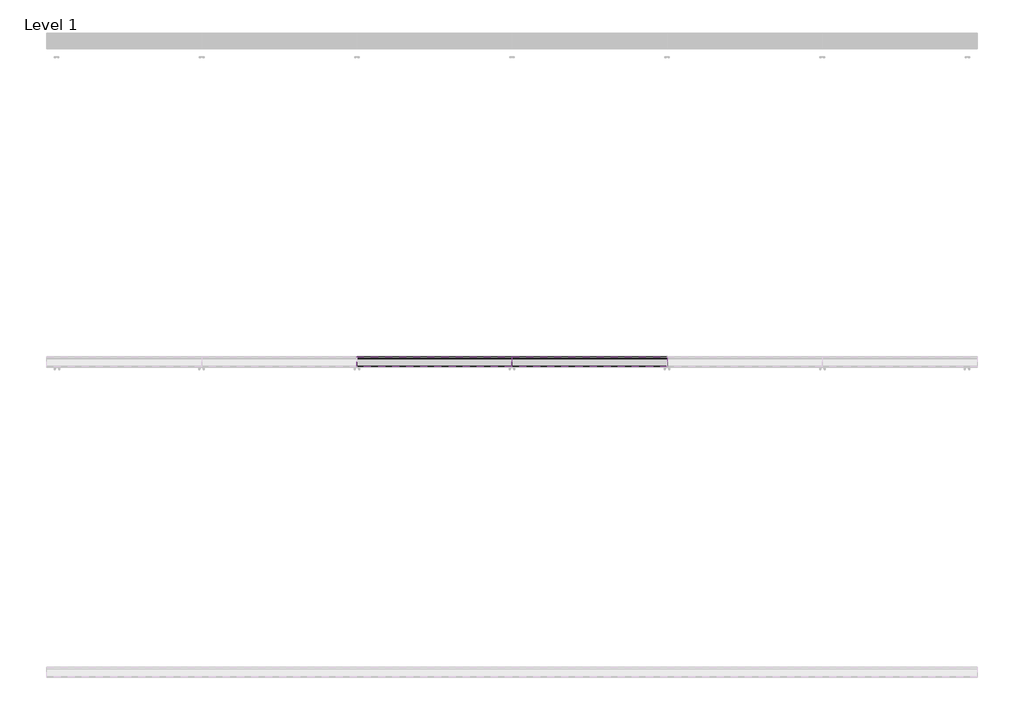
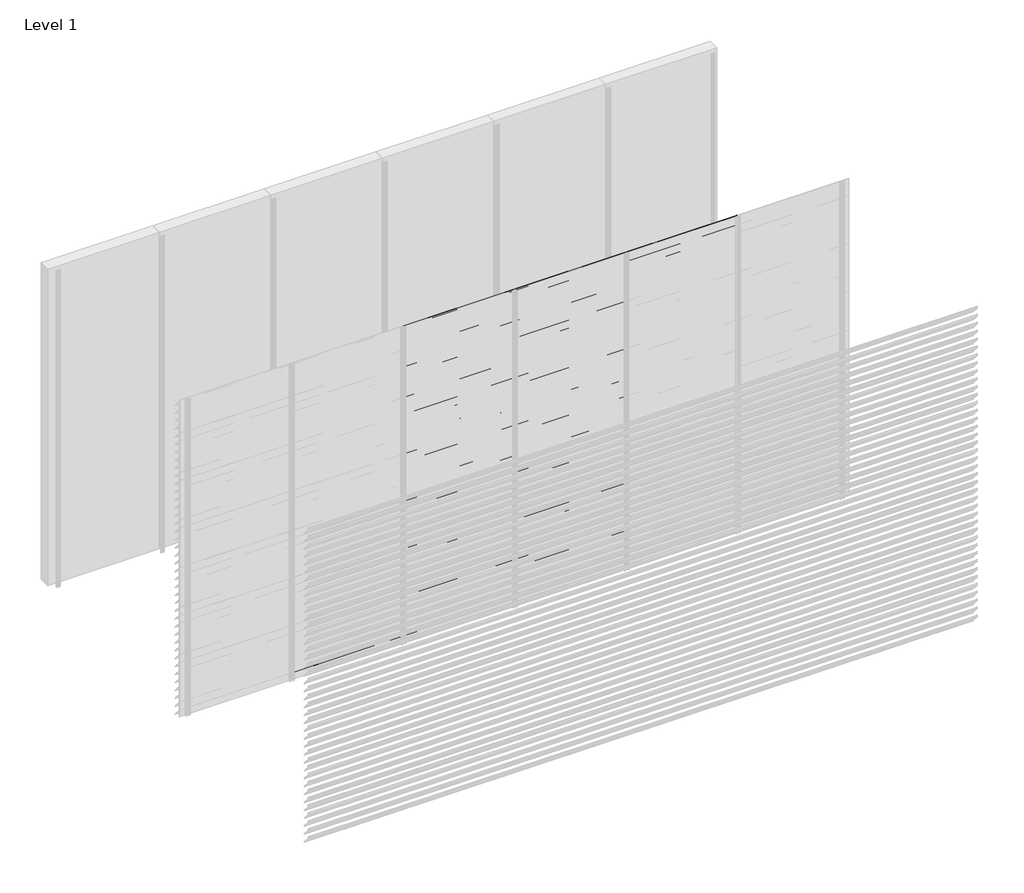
# One storey, part 31 of 35: 86 proxies.
"""IFC4 building model written with IfcOpenShell, lengths in millimetres."""

import ifcopenshell
import ifcopenshell.guid

model = None  # the IFC model being written
_history = None  # IfcOwnerHistory: only IFC2X3 demands one
_inside = {}  # id of a spatial element -> (the spatial element, [elements in it])
_under = {}  # id of a project, library or spatial element -> (it, [spatial elements below it])
_declared = {}  # id of a project -> (the project, [libraries it declares])
_typed = {}  # id of a type object -> (the type object, [elements of that type])
_made_of = {}  # id of a material, layer set ... -> (it, [elements and type objects made of it])


def new_model(schema):
    """Start an empty IFC model of exactly this schema.

    Asked for "IFC4X3", IfcOpenShell would pick the latest addendum, in which some entities
    have other attributes; the version numbers below select the first issue.
    IFC2X3 requires an IfcOwnerHistory on every rooted entity: one is made here for all.
    """
    global model, _history
    if schema == "IFC4X3":
        model = ifcopenshell.file(schema_version=(4, 3, 0, 0))
    else:
        model = ifcopenshell.file(schema=schema)
    _inside.clear()
    _under.clear()
    _declared.clear()
    _typed.clear()
    _made_of.clear()
    _history = None
    if model.schema == "IFC2X3":
        org = make("IfcOrganization", Name="unknown")
        user = make(
            "IfcPersonAndOrganization",
            ThePerson=make("IfcPerson", FamilyName="unknown"),
            TheOrganization=org,
        )
        app = make(
            "IfcApplication",
            ApplicationDeveloper=org,
            Version="unknown",
            ApplicationFullName="unknown",
            ApplicationIdentifier="unknown",
        )
        _history = make(
            "IfcOwnerHistory",
            OwningUser=user,
            OwningApplication=app,
            ChangeAction="ADDED",
            CreationDate=0,
        )
    return model


def make(cls, **values):
    """One entity of the class cls with the attributes given. An attribute that is None is left unset."""
    return model.create_entity(
        cls, **{name: value for name, value in values.items() if value is not None}
    )


def rooted(cls, **values):
    """An entity with a GlobalId (a new one), such as an element, a storey or a relation."""
    return make(cls, GlobalId=ifcopenshell.guid.new(), OwnerHistory=_history, **values)


def si_unit(unit_type, name, prefix=None):
    """IfcSIUnit, for example si_unit("LENGTHUNIT", "METRE", prefix="MILLI")."""
    return make("IfcSIUnit", UnitType=unit_type, Prefix=prefix, Name=name)


def assignment(units):
    """IfcUnitAssignment: the units of a project."""
    return None if units is None else make("IfcUnitAssignment", Units=units)


def point(xyz):
    """IfcCartesianPoint."""
    return None if xyz is None else make("IfcCartesianPoint", Coordinates=xyz)


def direction(xyz):
    """IfcDirection."""
    return None if xyz is None else make("IfcDirection", DirectionRatios=xyz)


def frame(location, z_axis=None, x_axis=None):
    """IfcAxis2Placement3D, a coordinate frame: its origin and axes. An axis left out is left unset."""
    return make(
        "IfcAxis2Placement3D",
        Location=point(location),
        Axis=direction(z_axis),
        RefDirection=direction(x_axis),
    )


def origin():
    """The frame at (0, 0, 0) with its axes left unset."""
    return frame((0.0, 0.0, 0.0))


def place(relative_to, where):
    """IfcLocalPlacement: puts the frame where relative to a parent placement (None: the world)."""
    return make(
        "IfcLocalPlacement", PlacementRelTo=relative_to, RelativePlacement=where
    )


def context(
    kind, dimensions, precision=None, world=None, true_north=None, identifier=None
):
    """IfcGeometricRepresentationContext, for example the 3D "Model" context."""
    return make(
        "IfcGeometricRepresentationContext",
        ContextIdentifier=identifier,
        ContextType=kind,
        CoordinateSpaceDimension=dimensions,
        Precision=precision,
        WorldCoordinateSystem=world,
        TrueNorth=true_north,
    )


def project(units=None, contexts=None):
    """IfcProject with its units and contexts."""
    return rooted(
        "IfcProject",
        Name="project",
        RepresentationContexts=contexts,
        UnitsInContext=assignment(units),
    )


def spatial(cls, under=None, at=None, **own):
    """A site, building, storey or space (cls), placed at a placement, below another one or the project."""
    s = rooted(cls, ObjectPlacement=at, **own)
    if under is not None:
        _under.setdefault(under.id(), (under, []))[1].append(s)
    return s


def polyline(points):
    """IfcPolyline through the points."""
    return make("IfcPolyline", Points=[point(p) for p in points])


def outline(outer, holes=None, kind="AREA"):
    """IfcArbitraryClosedProfileDef: a profile drawn as a closed curve; with holes, ...WithVoids."""
    if holes is None:
        return make("IfcArbitraryClosedProfileDef", ProfileType=kind, OuterCurve=outer)
    return make(
        "IfcArbitraryProfileDefWithVoids",
        ProfileType=kind,
        OuterCurve=outer,
        InnerCurves=holes,
    )


def extrude(swept, where, along, depth):
    """IfcExtrudedAreaSolid: the profile swept, set in the frame where, extruded along a direction by depth."""
    return make(
        "IfcExtrudedAreaSolid",
        SweptArea=swept,
        Position=where,
        ExtrudedDirection=direction(along),
        Depth=depth,
    )


def shape(context_of_items, identifier, shape_type, items):
    """IfcShapeRepresentation: the items that make up one representation, for example the "Body"."""
    return make(
        "IfcShapeRepresentation",
        ContextOfItems=context_of_items,
        RepresentationIdentifier=identifier,
        RepresentationType=shape_type,
        Items=items,
    )


def made_of(thing, what):
    """Note that an element or type object is made of a material, layer set ...; save() writes the relation."""
    if what is not None:
        _made_of.setdefault(what.id(), (what, []))[1].append(thing)
    return thing


def element(
    cls,
    number,
    at=None,
    inside=None,
    cuts=None,
    type_object=None,
    material=None,
    context=None,
    identifier="Body",
    shape_type=None,
    held_by="IfcProductDefinitionShape",
    body=None,
    shapes=None,
    **own,
):
    """One element of the class cls, such as IfcWall. Its Tag is "e" and its number.

    at: its placement. inside: the storey or other place that contains it. cuts: it is an
    opening in that element (IfcRelVoidsElement). A single representation is given by context,
    identifier, shape_type and body (its items); several are given by shapes. held_by: the class
    of the entity that holds the representations. save() writes the other relations.
    """
    e = rooted(cls, Tag="e%d" % number, ObjectPlacement=at, **own)
    if body is not None:
        shapes = [shape(context, identifier, shape_type, body)]
    if shapes is not None:
        e.Representation = make(held_by, Representations=shapes)
    if inside is not None:
        _inside.setdefault(inside.id(), (inside, []))[1].append(e)
    if cuts is not None:
        rooted(
            "IfcRelVoidsElement", RelatingBuildingElement=cuts, RelatedOpeningElement=e
        )
    if type_object is not None:
        _typed.setdefault(type_object.id(), (type_object, []))[1].append(e)
    return made_of(e, material)


def aggregate(whole, parts):
    """IfcRelAggregates: a whole, such as a stair, and the parts it consists of."""
    return rooted("IfcRelAggregates", RelatingObject=whole, RelatedObjects=parts)


def save(model, path):
    """Write the relations noted so far, then the file.

    IfcRelAggregates (storeys below a building ...), IfcRelContainedInSpatialStructure (elements
    in a storey), IfcRelDefinesByType, IfcRelAssociatesMaterial and IfcRelDeclares: one each for
    every whole, place, type object, material and project.
    """
    for whole, parts in _under.values():
        aggregate(whole, parts)
    for where, things in _inside.values():
        rooted(
            "IfcRelContainedInSpatialStructure",
            RelatedElements=things,
            RelatingStructure=where,
        )
    for kind, things in _typed.values():
        rooted("IfcRelDefinesByType", RelatedObjects=things, RelatingType=kind)
    for what, things in _made_of.values():
        rooted("IfcRelAssociatesMaterial", RelatedObjects=things, RelatingMaterial=what)
    for by, libraries in _declared.values():
        rooted("IfcRelDeclares", RelatingContext=by, RelatedDefinitions=libraries)
    model.write(path)


model = new_model("IFC4")

# Units and contexts
model_context = context("Model", 3, world=origin())
ifc_project = project(units=[si_unit("LENGTHUNIT", "METRE", prefix="MILLI")], contexts=[model_context])

# Site, building, storey
site = spatial("IfcSite", under=ifc_project)
building = spatial("IfcBuilding", under=site)
storey = spatial("IfcBuildingStorey", under=building, Name="Level 1", Elevation=0.0)

# Proxies
placement = place(None, origin())
element("IfcBuildingElementProxy", 1, Name="Wall Sweeps", at=placement, inside=storey, context=model_context, shape_type="SweptSolid", body=[
    extrude(outline(polyline([(-5996.5, 225.0), (-5996.5, 210.5463701), (-5934.5, 138.9330051), (-5934.5, 135.4), (-5936.0, 135.4), (-5936.0, 138.3738975), (-5998.0, 209.9872626), (-5998.0, 225.0), (-5996.5, 225.0)])), frame((1000.0, 0.0, 0.0), z_axis=(1.0, 0.0, 0.0), x_axis=(0.0, 1.0, 0.0)), (0.0, 0.0, 1.0), 1000.0),
])
element("IfcBuildingElementProxy", 2, Name="Wall Sweeps", at=placement, inside=storey, context=model_context, shape_type="SweptSolid", body=[
    extrude(outline(polyline([(-5996.5, 150.0), (-5996.5, 135.5463701), (-5934.5, 63.9330051), (-5934.5, 60.4), (-5936.0, 60.4), (-5936.0, 63.3738975), (-5998.0, 134.9872626), (-5998.0, 150.0), (-5996.5, 150.0)])), frame((1000.0, 0.0, 0.0), z_axis=(1.0, 0.0, 0.0), x_axis=(0.0, 1.0, 0.0)), (0.0, 0.0, 1.0), 1000.0),
])
element("IfcBuildingElementProxy", 3, Name="Wall Sweeps", at=placement, inside=storey, context=model_context, shape_type="SweptSolid", body=[
    extrude(outline(polyline([(-5996.5, 75.0), (-5996.5, 60.5463701), (-5934.5, -11.0669949), (-5934.5, -14.6), (-5936.0, -14.6), (-5936.0, -11.6261025), (-5998.0, 59.9872626), (-5998.0, 75.0), (-5996.5, 75.0)])), frame((1000.0, 0.0, 0.0), z_axis=(1.0, 0.0, 0.0), x_axis=(0.0, 1.0, 0.0)), (0.0, 0.0, 1.0), 1000.0),
])
element("IfcBuildingElementProxy", 4, Name="Wall Sweeps", at=placement, inside=storey, context=model_context, shape_type="SweptSolid", body=[
    extrude(outline(polyline([(-5996.5, 3000.0), (-5996.5, 2985.5463701), (-5934.5, 2913.9330051), (-5934.5, 2910.4), (-5936.0, 2910.4), (-5936.0, 2913.3738975), (-5998.0, 2984.9872626), (-5998.0, 3000.0), (-5996.5, 3000.0)])), frame((2000.0, 0.0, 0.0), z_axis=(1.0, 0.0, 0.0), x_axis=(0.0, 1.0, 0.0)), (0.0, 0.0, 1.0), 1000.0),
])
element("IfcBuildingElementProxy", 5, Name="Wall Sweeps", at=placement, inside=storey, context=model_context, shape_type="SweptSolid", body=[
    extrude(outline(polyline([(-5996.5, 2925.0), (-5996.5, 2910.5463701), (-5934.5, 2838.9330051), (-5934.5, 2835.4), (-5936.0, 2835.4), (-5936.0, 2838.3738975), (-5998.0, 2909.9872626), (-5998.0, 2925.0), (-5996.5, 2925.0)])), frame((2000.0, 0.0, 0.0), z_axis=(1.0, 0.0, 0.0), x_axis=(0.0, 1.0, 0.0)), (0.0, 0.0, 1.0), 1000.0),
])
element("IfcBuildingElementProxy", 6, Name="Wall Sweeps", at=placement, inside=storey, context=model_context, shape_type="SweptSolid", body=[
    extrude(outline(polyline([(-5996.5, 2850.0), (-5996.5, 2835.5463701), (-5934.5, 2763.9330051), (-5934.5, 2760.4), (-5936.0, 2760.4), (-5936.0, 2763.3738975), (-5998.0, 2834.9872626), (-5998.0, 2850.0), (-5996.5, 2850.0)])), frame((2000.0, 0.0, 0.0), z_axis=(1.0, 0.0, 0.0), x_axis=(0.0, 1.0, 0.0)), (0.0, 0.0, 1.0), 1000.0),
])
element("IfcBuildingElementProxy", 7, Name="Wall Sweeps", at=placement, inside=storey, context=model_context, shape_type="SweptSolid", body=[
    extrude(outline(polyline([(-5996.5, 2775.0), (-5996.5, 2760.5463701), (-5934.5, 2688.9330051), (-5934.5, 2685.4), (-5936.0, 2685.4), (-5936.0, 2688.3738975), (-5998.0, 2759.9872626), (-5998.0, 2775.0), (-5996.5, 2775.0)])), frame((2000.0, 0.0, 0.0), z_axis=(1.0, 0.0, 0.0), x_axis=(0.0, 1.0, 0.0)), (0.0, 0.0, 1.0), 1000.0),
])
element("IfcBuildingElementProxy", 8, Name="Wall Sweeps", at=placement, inside=storey, context=model_context, shape_type="SweptSolid", body=[
    extrude(outline(polyline([(-5996.5, 2700.0), (-5996.5, 2685.5463701), (-5934.5, 2613.9330051), (-5934.5, 2610.4), (-5936.0, 2610.4), (-5936.0, 2613.3738975), (-5998.0, 2684.9872626), (-5998.0, 2700.0), (-5996.5, 2700.0)])), frame((2000.0, 0.0, 0.0), z_axis=(1.0, 0.0, 0.0), x_axis=(0.0, 1.0, 0.0)), (0.0, 0.0, 1.0), 1000.0),
])
element("IfcBuildingElementProxy", 9, Name="Wall Sweeps", at=placement, inside=storey, context=model_context, shape_type="SweptSolid", body=[
    extrude(outline(polyline([(-5996.5, 2625.0), (-5996.5, 2610.5463701), (-5934.5, 2538.9330051), (-5934.5, 2535.4), (-5936.0, 2535.4), (-5936.0, 2538.3738975), (-5998.0, 2609.9872626), (-5998.0, 2625.0), (-5996.5, 2625.0)])), frame((2000.0, 0.0, 0.0), z_axis=(1.0, 0.0, 0.0), x_axis=(0.0, 1.0, 0.0)), (0.0, 0.0, 1.0), 1000.0),
])
element("IfcBuildingElementProxy", 10, Name="Wall Sweeps", at=placement, inside=storey, context=model_context, shape_type="SweptSolid", body=[
    extrude(outline(polyline([(-5996.5, 2550.0), (-5996.5, 2535.5463701), (-5934.5, 2463.9330051), (-5934.5, 2460.4), (-5936.0, 2460.4), (-5936.0, 2463.3738975), (-5998.0, 2534.9872626), (-5998.0, 2550.0), (-5996.5, 2550.0)])), frame((2000.0, 0.0, 0.0), z_axis=(1.0, 0.0, 0.0), x_axis=(0.0, 1.0, 0.0)), (0.0, 0.0, 1.0), 1000.0),
])
element("IfcBuildingElementProxy", 11, Name="Wall Sweeps", at=placement, inside=storey, context=model_context, shape_type="SweptSolid", body=[
    extrude(outline(polyline([(-5996.5, 2475.0), (-5996.5, 2460.5463701), (-5934.5, 2388.9330051), (-5934.5, 2385.4), (-5936.0, 2385.4), (-5936.0, 2388.3738975), (-5998.0, 2459.9872626), (-5998.0, 2475.0), (-5996.5, 2475.0)])), frame((2000.0, 0.0, 0.0), z_axis=(1.0, 0.0, 0.0), x_axis=(0.0, 1.0, 0.0)), (0.0, 0.0, 1.0), 1000.0),
])
element("IfcBuildingElementProxy", 12, Name="Wall Sweeps", at=placement, inside=storey, context=model_context, shape_type="SweptSolid", body=[
    extrude(outline(polyline([(-5996.5, 2400.0), (-5996.5, 2385.5463701), (-5934.5, 2313.9330051), (-5934.5, 2310.4), (-5936.0, 2310.4), (-5936.0, 2313.3738975), (-5998.0, 2384.9872626), (-5998.0, 2400.0), (-5996.5, 2400.0)])), frame((2000.0, 0.0, 0.0), z_axis=(1.0, 0.0, 0.0), x_axis=(0.0, 1.0, 0.0)), (0.0, 0.0, 1.0), 1000.0),
])
element("IfcBuildingElementProxy", 13, Name="Wall Sweeps", at=placement, inside=storey, context=model_context, shape_type="SweptSolid", body=[
    extrude(outline(polyline([(-5996.5, 2325.0), (-5996.5, 2310.5463701), (-5934.5, 2238.9330051), (-5934.5, 2235.4), (-5936.0, 2235.4), (-5936.0, 2238.3738975), (-5998.0, 2309.9872626), (-5998.0, 2325.0), (-5996.5, 2325.0)])), frame((2000.0, 0.0, 0.0), z_axis=(1.0, 0.0, 0.0), x_axis=(0.0, 1.0, 0.0)), (0.0, 0.0, 1.0), 1000.0),
])
element("IfcBuildingElementProxy", 14, Name="Wall Sweeps", at=placement, inside=storey, context=model_context, shape_type="SweptSolid", body=[
    extrude(outline(polyline([(-5996.5, 2250.0), (-5996.5, 2235.5463701), (-5934.5, 2163.9330051), (-5934.5, 2160.4), (-5936.0, 2160.4), (-5936.0, 2163.3738975), (-5998.0, 2234.9872626), (-5998.0, 2250.0), (-5996.5, 2250.0)])), frame((2000.0, 0.0, 0.0), z_axis=(1.0, 0.0, 0.0), x_axis=(0.0, 1.0, 0.0)), (0.0, 0.0, 1.0), 1000.0),
])
element("IfcBuildingElementProxy", 15, Name="Wall Sweeps", at=placement, inside=storey, context=model_context, shape_type="SweptSolid", body=[
    extrude(outline(polyline([(-5996.5, 2175.0), (-5996.5, 2160.5463701), (-5934.5, 2088.9330051), (-5934.5, 2085.4), (-5936.0, 2085.4), (-5936.0, 2088.3738975), (-5998.0, 2159.9872626), (-5998.0, 2175.0), (-5996.5, 2175.0)])), frame((2000.0, 0.0, 0.0), z_axis=(1.0, 0.0, 0.0), x_axis=(0.0, 1.0, 0.0)), (0.0, 0.0, 1.0), 1000.0),
])
element("IfcBuildingElementProxy", 16, Name="Wall Sweeps", at=placement, inside=storey, context=model_context, shape_type="SweptSolid", body=[
    extrude(outline(polyline([(-5996.5, 2100.0), (-5996.5, 2085.5463701), (-5934.5, 2013.9330051), (-5934.5, 2010.4), (-5936.0, 2010.4), (-5936.0, 2013.3738975), (-5998.0, 2084.9872626), (-5998.0, 2100.0), (-5996.5, 2100.0)])), frame((2000.0, 0.0, 0.0), z_axis=(1.0, 0.0, 0.0), x_axis=(0.0, 1.0, 0.0)), (0.0, 0.0, 1.0), 1000.0),
])
element("IfcBuildingElementProxy", 17, Name="Wall Sweeps", at=placement, inside=storey, context=model_context, shape_type="SweptSolid", body=[
    extrude(outline(polyline([(-5996.5, 2025.0), (-5996.5, 2010.5463701), (-5934.5, 1938.9330051), (-5934.5, 1935.4), (-5936.0, 1935.4), (-5936.0, 1938.3738975), (-5998.0, 2009.9872626), (-5998.0, 2025.0), (-5996.5, 2025.0)])), frame((2000.0, 0.0, 0.0), z_axis=(1.0, 0.0, 0.0), x_axis=(0.0, 1.0, 0.0)), (0.0, 0.0, 1.0), 1000.0),
])
element("IfcBuildingElementProxy", 18, Name="Wall Sweeps", at=placement, inside=storey, context=model_context, shape_type="SweptSolid", body=[
    extrude(outline(polyline([(-5996.5, 1950.0), (-5996.5, 1935.5463701), (-5934.5, 1863.9330051), (-5934.5, 1860.4), (-5936.0, 1860.4), (-5936.0, 1863.3738975), (-5998.0, 1934.9872626), (-5998.0, 1950.0), (-5996.5, 1950.0)])), frame((2000.0, 0.0, 0.0), z_axis=(1.0, 0.0, 0.0), x_axis=(0.0, 1.0, 0.0)), (0.0, 0.0, 1.0), 1000.0),
])
element("IfcBuildingElementProxy", 19, Name="Wall Sweeps", at=placement, inside=storey, context=model_context, shape_type="SweptSolid", body=[
    extrude(outline(polyline([(-5996.5, 1875.0), (-5996.5, 1860.5463701), (-5934.5, 1788.9330051), (-5934.5, 1785.4), (-5936.0, 1785.4), (-5936.0, 1788.3738975), (-5998.0, 1859.9872626), (-5998.0, 1875.0), (-5996.5, 1875.0)])), frame((2000.0, 0.0, 0.0), z_axis=(1.0, 0.0, 0.0), x_axis=(0.0, 1.0, 0.0)), (0.0, 0.0, 1.0), 1000.0),
])
element("IfcBuildingElementProxy", 20, Name="Wall Sweeps", at=placement, inside=storey, context=model_context, shape_type="SweptSolid", body=[
    extrude(outline(polyline([(-5996.5, 1800.0), (-5996.5, 1785.5463701), (-5934.5, 1713.9330051), (-5934.5, 1710.4), (-5936.0, 1710.4), (-5936.0, 1713.3738975), (-5998.0, 1784.9872626), (-5998.0, 1800.0), (-5996.5, 1800.0)])), frame((2000.0, 0.0, 0.0), z_axis=(1.0, 0.0, 0.0), x_axis=(0.0, 1.0, 0.0)), (0.0, 0.0, 1.0), 1000.0),
])
element("IfcBuildingElementProxy", 21, Name="Wall Sweeps", at=placement, inside=storey, context=model_context, shape_type="SweptSolid", body=[
    extrude(outline(polyline([(-5996.5, 1725.0), (-5996.5, 1710.5463701), (-5934.5, 1638.9330051), (-5934.5, 1635.4), (-5936.0, 1635.4), (-5936.0, 1638.3738975), (-5998.0, 1709.9872626), (-5998.0, 1725.0), (-5996.5, 1725.0)])), frame((2000.0, 0.0, 0.0), z_axis=(1.0, 0.0, 0.0), x_axis=(0.0, 1.0, 0.0)), (0.0, 0.0, 1.0), 1000.0),
])
element("IfcBuildingElementProxy", 22, Name="Wall Sweeps", at=placement, inside=storey, context=model_context, shape_type="SweptSolid", body=[
    extrude(outline(polyline([(-5996.5, 1650.0), (-5996.5, 1635.5463701), (-5934.5, 1563.9330051), (-5934.5, 1560.4), (-5936.0, 1560.4), (-5936.0, 1563.3738975), (-5998.0, 1634.9872626), (-5998.0, 1650.0), (-5996.5, 1650.0)])), frame((2000.0, 0.0, 0.0), z_axis=(1.0, 0.0, 0.0), x_axis=(0.0, 1.0, 0.0)), (0.0, 0.0, 1.0), 1000.0),
])
element("IfcBuildingElementProxy", 23, Name="Wall Sweeps", at=placement, inside=storey, context=model_context, shape_type="SweptSolid", body=[
    extrude(outline(polyline([(-5996.5, 1575.0), (-5996.5, 1560.5463701), (-5934.5, 1488.9330051), (-5934.5, 1485.4), (-5936.0, 1485.4), (-5936.0, 1488.3738975), (-5998.0, 1559.9872626), (-5998.0, 1575.0), (-5996.5, 1575.0)])), frame((2000.0, 0.0, 0.0), z_axis=(1.0, 0.0, 0.0), x_axis=(0.0, 1.0, 0.0)), (0.0, 0.0, 1.0), 1000.0),
])
element("IfcBuildingElementProxy", 24, Name="Wall Sweeps", at=placement, inside=storey, context=model_context, shape_type="SweptSolid", body=[
    extrude(outline(polyline([(-5996.5, 1500.0), (-5996.5, 1485.5463701), (-5934.5, 1413.9330051), (-5934.5, 1410.4), (-5936.0, 1410.4), (-5936.0, 1413.3738975), (-5998.0, 1484.9872626), (-5998.0, 1500.0), (-5996.5, 1500.0)])), frame((2000.0, 0.0, 0.0), z_axis=(1.0, 0.0, 0.0), x_axis=(0.0, 1.0, 0.0)), (0.0, 0.0, 1.0), 1000.0),
])
element("IfcBuildingElementProxy", 25, Name="Wall Sweeps", at=placement, inside=storey, context=model_context, shape_type="SweptSolid", body=[
    extrude(outline(polyline([(-5996.5, 1425.0), (-5996.5, 1410.5463701), (-5934.5, 1338.9330051), (-5934.5, 1335.4), (-5936.0, 1335.4), (-5936.0, 1338.3738975), (-5998.0, 1409.9872626), (-5998.0, 1425.0), (-5996.5, 1425.0)])), frame((2000.0, 0.0, 0.0), z_axis=(1.0, 0.0, 0.0), x_axis=(0.0, 1.0, 0.0)), (0.0, 0.0, 1.0), 1000.0),
])
element("IfcBuildingElementProxy", 26, Name="Wall Sweeps", at=placement, inside=storey, context=model_context, shape_type="SweptSolid", body=[
    extrude(outline(polyline([(-5996.5, 1350.0), (-5996.5, 1335.5463701), (-5934.5, 1263.9330051), (-5934.5, 1260.4), (-5936.0, 1260.4), (-5936.0, 1263.3738975), (-5998.0, 1334.9872626), (-5998.0, 1350.0), (-5996.5, 1350.0)])), frame((2000.0, 0.0, 0.0), z_axis=(1.0, 0.0, 0.0), x_axis=(0.0, 1.0, 0.0)), (0.0, 0.0, 1.0), 1000.0),
])
element("IfcBuildingElementProxy", 27, Name="Wall Sweeps", at=placement, inside=storey, context=model_context, shape_type="SweptSolid", body=[
    extrude(outline(polyline([(-5996.5, 1275.0), (-5996.5, 1260.5463701), (-5934.5, 1188.9330051), (-5934.5, 1185.4), (-5936.0, 1185.4), (-5936.0, 1188.3738975), (-5998.0, 1259.9872626), (-5998.0, 1275.0), (-5996.5, 1275.0)])), frame((2000.0, 0.0, 0.0), z_axis=(1.0, 0.0, 0.0), x_axis=(0.0, 1.0, 0.0)), (0.0, 0.0, 1.0), 1000.0),
])
element("IfcBuildingElementProxy", 28, Name="Wall Sweeps", at=placement, inside=storey, context=model_context, shape_type="SweptSolid", body=[
    extrude(outline(polyline([(-5996.5, 1200.0), (-5996.5, 1185.5463701), (-5934.5, 1113.9330051), (-5934.5, 1110.4), (-5936.0, 1110.4), (-5936.0, 1113.3738975), (-5998.0, 1184.9872626), (-5998.0, 1200.0), (-5996.5, 1200.0)])), frame((2000.0, 0.0, 0.0), z_axis=(1.0, 0.0, 0.0), x_axis=(0.0, 1.0, 0.0)), (0.0, 0.0, 1.0), 1000.0),
])
element("IfcBuildingElementProxy", 29, Name="Wall Sweeps", at=placement, inside=storey, context=model_context, shape_type="SweptSolid", body=[
    extrude(outline(polyline([(-5996.5, 1125.0), (-5996.5, 1110.5463701), (-5934.5, 1038.9330051), (-5934.5, 1035.4), (-5936.0, 1035.4), (-5936.0, 1038.3738975), (-5998.0, 1109.9872626), (-5998.0, 1125.0), (-5996.5, 1125.0)])), frame((2000.0, 0.0, 0.0), z_axis=(1.0, 0.0, 0.0), x_axis=(0.0, 1.0, 0.0)), (0.0, 0.0, 1.0), 1000.0),
])
element("IfcBuildingElementProxy", 30, Name="Wall Sweeps", at=placement, inside=storey, context=model_context, shape_type="SweptSolid", body=[
    extrude(outline(polyline([(-5996.5, 1050.0), (-5996.5, 1035.5463701), (-5934.5, 963.9330051), (-5934.5, 960.4), (-5936.0, 960.4), (-5936.0, 963.3738975), (-5998.0, 1034.9872626), (-5998.0, 1050.0), (-5996.5, 1050.0)])), frame((2000.0, 0.0, 0.0), z_axis=(1.0, 0.0, 0.0), x_axis=(0.0, 1.0, 0.0)), (0.0, 0.0, 1.0), 1000.0),
])
element("IfcBuildingElementProxy", 31, Name="Wall Sweeps", at=placement, inside=storey, context=model_context, shape_type="SweptSolid", body=[
    extrude(outline(polyline([(-5996.5, 975.0), (-5996.5, 960.5463701), (-5934.5, 888.9330051), (-5934.5, 885.4), (-5936.0, 885.4), (-5936.0, 888.3738975), (-5998.0, 959.9872626), (-5998.0, 975.0), (-5996.5, 975.0)])), frame((2000.0, 0.0, 0.0), z_axis=(1.0, 0.0, 0.0), x_axis=(0.0, 1.0, 0.0)), (0.0, 0.0, 1.0), 1000.0),
])
element("IfcBuildingElementProxy", 32, Name="Wall Sweeps", at=placement, inside=storey, context=model_context, shape_type="SweptSolid", body=[
    extrude(outline(polyline([(-5996.5, 900.0), (-5996.5, 885.5463701), (-5934.5, 813.9330051), (-5934.5, 810.4), (-5936.0, 810.4), (-5936.0, 813.3738975), (-5998.0, 884.9872626), (-5998.0, 900.0), (-5996.5, 900.0)])), frame((2000.0, 0.0, 0.0), z_axis=(1.0, 0.0, 0.0), x_axis=(0.0, 1.0, 0.0)), (0.0, 0.0, 1.0), 1000.0),
])
element("IfcBuildingElementProxy", 33, Name="Wall Sweeps", at=placement, inside=storey, context=model_context, shape_type="SweptSolid", body=[
    extrude(outline(polyline([(-5996.5, 825.0), (-5996.5, 810.5463701), (-5934.5, 738.9330051), (-5934.5, 735.4), (-5936.0, 735.4), (-5936.0, 738.3738975), (-5998.0, 809.9872626), (-5998.0, 825.0), (-5996.5, 825.0)])), frame((2000.0, 0.0, 0.0), z_axis=(1.0, 0.0, 0.0), x_axis=(0.0, 1.0, 0.0)), (0.0, 0.0, 1.0), 1000.0),
])
element("IfcBuildingElementProxy", 34, Name="Wall Sweeps", at=placement, inside=storey, context=model_context, shape_type="SweptSolid", body=[
    extrude(outline(polyline([(-5996.5, 750.0), (-5996.5, 735.5463701), (-5934.5, 663.9330051), (-5934.5, 660.4), (-5936.0, 660.4), (-5936.0, 663.3738975), (-5998.0, 734.9872626), (-5998.0, 750.0), (-5996.5, 750.0)])), frame((2000.0, 0.0, 0.0), z_axis=(1.0, 0.0, 0.0), x_axis=(0.0, 1.0, 0.0)), (0.0, 0.0, 1.0), 1000.0),
])
element("IfcBuildingElementProxy", 35, Name="Wall Sweeps", at=placement, inside=storey, context=model_context, shape_type="SweptSolid", body=[
    extrude(outline(polyline([(-5996.5, 675.0), (-5996.5, 660.5463701), (-5934.5, 588.9330051), (-5934.5, 585.4), (-5936.0, 585.4), (-5936.0, 588.3738975), (-5998.0, 659.9872626), (-5998.0, 675.0), (-5996.5, 675.0)])), frame((2000.0, 0.0, 0.0), z_axis=(1.0, 0.0, 0.0), x_axis=(0.0, 1.0, 0.0)), (0.0, 0.0, 1.0), 1000.0),
])
element("IfcBuildingElementProxy", 36, Name="Wall Sweeps", at=placement, inside=storey, context=model_context, shape_type="SweptSolid", body=[
    extrude(outline(polyline([(-5996.5, 600.0), (-5996.5, 585.5463701), (-5934.5, 513.9330051), (-5934.5, 510.4), (-5936.0, 510.4), (-5936.0, 513.3738975), (-5998.0, 584.9872626), (-5998.0, 600.0), (-5996.5, 600.0)])), frame((2000.0, 0.0, 0.0), z_axis=(1.0, 0.0, 0.0), x_axis=(0.0, 1.0, 0.0)), (0.0, 0.0, 1.0), 1000.0),
])
element("IfcBuildingElementProxy", 37, Name="Wall Sweeps", at=placement, inside=storey, context=model_context, shape_type="SweptSolid", body=[
    extrude(outline(polyline([(-5996.5, 525.0), (-5996.5, 510.5463701), (-5934.5, 438.9330051), (-5934.5, 435.4), (-5936.0, 435.4), (-5936.0, 438.3738975), (-5998.0, 509.9872626), (-5998.0, 525.0), (-5996.5, 525.0)])), frame((2000.0, 0.0, 0.0), z_axis=(1.0, 0.0, 0.0), x_axis=(0.0, 1.0, 0.0)), (0.0, 0.0, 1.0), 1000.0),
])
element("IfcBuildingElementProxy", 38, Name="Wall Sweeps", at=placement, inside=storey, context=model_context, shape_type="SweptSolid", body=[
    extrude(outline(polyline([(-5996.5, 450.0), (-5996.5, 435.5463701), (-5934.5, 363.9330051), (-5934.5, 360.4), (-5936.0, 360.4), (-5936.0, 363.3738975), (-5998.0, 434.9872626), (-5998.0, 450.0), (-5996.5, 450.0)])), frame((2000.0, 0.0, 0.0), z_axis=(1.0, 0.0, 0.0), x_axis=(0.0, 1.0, 0.0)), (0.0, 0.0, 1.0), 1000.0),
])
element("IfcBuildingElementProxy", 39, Name="Wall Sweeps", at=placement, inside=storey, context=model_context, shape_type="SweptSolid", body=[
    extrude(outline(polyline([(-5996.5, 375.0), (-5996.5, 360.5463701), (-5934.5, 288.9330051), (-5934.5, 285.4), (-5936.0, 285.4), (-5936.0, 288.3738975), (-5998.0, 359.9872626), (-5998.0, 375.0), (-5996.5, 375.0)])), frame((2000.0, 0.0, 0.0), z_axis=(1.0, 0.0, 0.0), x_axis=(0.0, 1.0, 0.0)), (0.0, 0.0, 1.0), 1000.0),
])
element("IfcBuildingElementProxy", 40, Name="Wall Sweeps", at=placement, inside=storey, context=model_context, shape_type="SweptSolid", body=[
    extrude(outline(polyline([(-5996.5, 300.0), (-5996.5, 285.5463701), (-5934.5, 213.9330051), (-5934.5, 210.4), (-5936.0, 210.4), (-5936.0, 213.3738975), (-5998.0, 284.9872626), (-5998.0, 300.0), (-5996.5, 300.0)])), frame((2000.0, 0.0, 0.0), z_axis=(1.0, 0.0, 0.0), x_axis=(0.0, 1.0, 0.0)), (0.0, 0.0, 1.0), 1000.0),
])
element("IfcBuildingElementProxy", 41, Name="Wall Sweeps", at=placement, inside=storey, context=model_context, shape_type="SweptSolid", body=[
    extrude(outline(polyline([(-5996.5, 225.0), (-5996.5, 210.5463701), (-5934.5, 138.9330051), (-5934.5, 135.4), (-5936.0, 135.4), (-5936.0, 138.3738975), (-5998.0, 209.9872626), (-5998.0, 225.0), (-5996.5, 225.0)])), frame((2000.0, 0.0, 0.0), z_axis=(1.0, 0.0, 0.0), x_axis=(0.0, 1.0, 0.0)), (0.0, 0.0, 1.0), 1000.0),
])
element("IfcBuildingElementProxy", 42, Name="Wall Sweeps", at=placement, inside=storey, context=model_context, shape_type="SweptSolid", body=[
    extrude(outline(polyline([(-5996.5, 150.0), (-5996.5, 135.5463701), (-5934.5, 63.9330051), (-5934.5, 60.4), (-5936.0, 60.4), (-5936.0, 63.3738975), (-5998.0, 134.9872626), (-5998.0, 150.0), (-5996.5, 150.0)])), frame((2000.0, 0.0, 0.0), z_axis=(1.0, 0.0, 0.0), x_axis=(0.0, 1.0, 0.0)), (0.0, 0.0, 1.0), 1000.0),
])
element("IfcBuildingElementProxy", 43, Name="Wall Sweeps", at=placement, inside=storey, context=model_context, shape_type="SweptSolid", body=[
    extrude(outline(polyline([(-5996.5, 75.0), (-5996.5, 60.5463701), (-5934.5, -11.0669949), (-5934.5, -14.6), (-5936.0, -14.6), (-5936.0, -11.6261025), (-5998.0, 59.9872626), (-5998.0, 75.0), (-5996.5, 75.0)])), frame((2000.0, 0.0, 0.0), z_axis=(1.0, 0.0, 0.0), x_axis=(0.0, 1.0, 0.0)), (0.0, 0.0, 1.0), 1000.0),
])
element("IfcBuildingElementProxy", 44, Name="Wall Sweeps", at=placement, inside=storey, context=model_context, shape_type="SweptSolid", body=[
    extrude(outline(polyline([(-5996.5, 3000.0), (-5996.5, 2985.5463701), (-5934.5, 2913.9330051), (-5934.5, 2910.4), (-5936.0, 2910.4), (-5936.0, 2913.3738975), (-5998.0, 2984.9872626), (-5998.0, 3000.0), (-5996.5, 3000.0)])), frame((3000.0, 0.0, 0.0), z_axis=(1.0, 0.0, 0.0), x_axis=(0.0, 1.0, 0.0)), (0.0, 0.0, 1.0), 1000.0),
])
element("IfcBuildingElementProxy", 45, Name="Wall Sweeps", at=placement, inside=storey, context=model_context, shape_type="SweptSolid", body=[
    extrude(outline(polyline([(-5996.5, 2925.0), (-5996.5, 2910.5463701), (-5934.5, 2838.9330051), (-5934.5, 2835.4), (-5936.0, 2835.4), (-5936.0, 2838.3738975), (-5998.0, 2909.9872626), (-5998.0, 2925.0), (-5996.5, 2925.0)])), frame((3000.0, 0.0, 0.0), z_axis=(1.0, 0.0, 0.0), x_axis=(0.0, 1.0, 0.0)), (0.0, 0.0, 1.0), 1000.0),
])
element("IfcBuildingElementProxy", 46, Name="Wall Sweeps", at=placement, inside=storey, context=model_context, shape_type="SweptSolid", body=[
    extrude(outline(polyline([(-5996.5, 2850.0), (-5996.5, 2835.5463701), (-5934.5, 2763.9330051), (-5934.5, 2760.4), (-5936.0, 2760.4), (-5936.0, 2763.3738975), (-5998.0, 2834.9872626), (-5998.0, 2850.0), (-5996.5, 2850.0)])), frame((3000.0, 0.0, 0.0), z_axis=(1.0, 0.0, 0.0), x_axis=(0.0, 1.0, 0.0)), (0.0, 0.0, 1.0), 1000.0),
])
element("IfcBuildingElementProxy", 47, Name="Wall Sweeps", at=placement, inside=storey, context=model_context, shape_type="SweptSolid", body=[
    extrude(outline(polyline([(-5996.5, 2775.0), (-5996.5, 2760.5463701), (-5934.5, 2688.9330051), (-5934.5, 2685.4), (-5936.0, 2685.4), (-5936.0, 2688.3738975), (-5998.0, 2759.9872626), (-5998.0, 2775.0), (-5996.5, 2775.0)])), frame((3000.0, 0.0, 0.0), z_axis=(1.0, 0.0, 0.0), x_axis=(0.0, 1.0, 0.0)), (0.0, 0.0, 1.0), 1000.0),
])
element("IfcBuildingElementProxy", 48, Name="Wall Sweeps", at=placement, inside=storey, context=model_context, shape_type="SweptSolid", body=[
    extrude(outline(polyline([(-5996.5, 2700.0), (-5996.5, 2685.5463701), (-5934.5, 2613.9330051), (-5934.5, 2610.4), (-5936.0, 2610.4), (-5936.0, 2613.3738975), (-5998.0, 2684.9872626), (-5998.0, 2700.0), (-5996.5, 2700.0)])), frame((3000.0, 0.0, 0.0), z_axis=(1.0, 0.0, 0.0), x_axis=(0.0, 1.0, 0.0)), (0.0, 0.0, 1.0), 1000.0),
])
element("IfcBuildingElementProxy", 49, Name="Wall Sweeps", at=placement, inside=storey, context=model_context, shape_type="SweptSolid", body=[
    extrude(outline(polyline([(-5996.5, 2625.0), (-5996.5, 2610.5463701), (-5934.5, 2538.9330051), (-5934.5, 2535.4), (-5936.0, 2535.4), (-5936.0, 2538.3738975), (-5998.0, 2609.9872626), (-5998.0, 2625.0), (-5996.5, 2625.0)])), frame((3000.0, 0.0, 0.0), z_axis=(1.0, 0.0, 0.0), x_axis=(0.0, 1.0, 0.0)), (0.0, 0.0, 1.0), 1000.0),
])
element("IfcBuildingElementProxy", 50, Name="Wall Sweeps", at=placement, inside=storey, context=model_context, shape_type="SweptSolid", body=[
    extrude(outline(polyline([(-5996.5, 2550.0), (-5996.5, 2535.5463701), (-5934.5, 2463.9330051), (-5934.5, 2460.4), (-5936.0, 2460.4), (-5936.0, 2463.3738975), (-5998.0, 2534.9872626), (-5998.0, 2550.0), (-5996.5, 2550.0)])), frame((3000.0, 0.0, 0.0), z_axis=(1.0, 0.0, 0.0), x_axis=(0.0, 1.0, 0.0)), (0.0, 0.0, 1.0), 1000.0),
])
element("IfcBuildingElementProxy", 51, Name="Wall Sweeps", at=placement, inside=storey, context=model_context, shape_type="SweptSolid", body=[
    extrude(outline(polyline([(-5996.5, 2475.0), (-5996.5, 2460.5463701), (-5934.5, 2388.9330051), (-5934.5, 2385.4), (-5936.0, 2385.4), (-5936.0, 2388.3738975), (-5998.0, 2459.9872626), (-5998.0, 2475.0), (-5996.5, 2475.0)])), frame((3000.0, 0.0, 0.0), z_axis=(1.0, 0.0, 0.0), x_axis=(0.0, 1.0, 0.0)), (0.0, 0.0, 1.0), 1000.0),
])
element("IfcBuildingElementProxy", 52, Name="Wall Sweeps", at=placement, inside=storey, context=model_context, shape_type="SweptSolid", body=[
    extrude(outline(polyline([(-5996.5, 2400.0), (-5996.5, 2385.5463701), (-5934.5, 2313.9330051), (-5934.5, 2310.4), (-5936.0, 2310.4), (-5936.0, 2313.3738975), (-5998.0, 2384.9872626), (-5998.0, 2400.0), (-5996.5, 2400.0)])), frame((3000.0, 0.0, 0.0), z_axis=(1.0, 0.0, 0.0), x_axis=(0.0, 1.0, 0.0)), (0.0, 0.0, 1.0), 1000.0),
])
element("IfcBuildingElementProxy", 53, Name="Wall Sweeps", at=placement, inside=storey, context=model_context, shape_type="SweptSolid", body=[
    extrude(outline(polyline([(-5996.5, 2325.0), (-5996.5, 2310.5463701), (-5934.5, 2238.9330051), (-5934.5, 2235.4), (-5936.0, 2235.4), (-5936.0, 2238.3738975), (-5998.0, 2309.9872626), (-5998.0, 2325.0), (-5996.5, 2325.0)])), frame((3000.0, 0.0, 0.0), z_axis=(1.0, 0.0, 0.0), x_axis=(0.0, 1.0, 0.0)), (0.0, 0.0, 1.0), 1000.0),
])
element("IfcBuildingElementProxy", 54, Name="Wall Sweeps", at=placement, inside=storey, context=model_context, shape_type="SweptSolid", body=[
    extrude(outline(polyline([(-5996.5, 2250.0), (-5996.5, 2235.5463701), (-5934.5, 2163.9330051), (-5934.5, 2160.4), (-5936.0, 2160.4), (-5936.0, 2163.3738975), (-5998.0, 2234.9872626), (-5998.0, 2250.0), (-5996.5, 2250.0)])), frame((3000.0, 0.0, 0.0), z_axis=(1.0, 0.0, 0.0), x_axis=(0.0, 1.0, 0.0)), (0.0, 0.0, 1.0), 1000.0),
])
element("IfcBuildingElementProxy", 55, Name="Wall Sweeps", at=placement, inside=storey, context=model_context, shape_type="SweptSolid", body=[
    extrude(outline(polyline([(-5996.5, 2175.0), (-5996.5, 2160.5463701), (-5934.5, 2088.9330051), (-5934.5, 2085.4), (-5936.0, 2085.4), (-5936.0, 2088.3738975), (-5998.0, 2159.9872626), (-5998.0, 2175.0), (-5996.5, 2175.0)])), frame((3000.0, 0.0, 0.0), z_axis=(1.0, 0.0, 0.0), x_axis=(0.0, 1.0, 0.0)), (0.0, 0.0, 1.0), 1000.0),
])
element("IfcBuildingElementProxy", 56, Name="Wall Sweeps", at=placement, inside=storey, context=model_context, shape_type="SweptSolid", body=[
    extrude(outline(polyline([(-5996.5, 2100.0), (-5996.5, 2085.5463701), (-5934.5, 2013.9330051), (-5934.5, 2010.4), (-5936.0, 2010.4), (-5936.0, 2013.3738975), (-5998.0, 2084.9872626), (-5998.0, 2100.0), (-5996.5, 2100.0)])), frame((3000.0, 0.0, 0.0), z_axis=(1.0, 0.0, 0.0), x_axis=(0.0, 1.0, 0.0)), (0.0, 0.0, 1.0), 1000.0),
])
element("IfcBuildingElementProxy", 57, Name="Wall Sweeps", at=placement, inside=storey, context=model_context, shape_type="SweptSolid", body=[
    extrude(outline(polyline([(-5996.5, 2025.0), (-5996.5, 2010.5463701), (-5934.5, 1938.9330051), (-5934.5, 1935.4), (-5936.0, 1935.4), (-5936.0, 1938.3738975), (-5998.0, 2009.9872626), (-5998.0, 2025.0), (-5996.5, 2025.0)])), frame((3000.0, 0.0, 0.0), z_axis=(1.0, 0.0, 0.0), x_axis=(0.0, 1.0, 0.0)), (0.0, 0.0, 1.0), 1000.0),
])
element("IfcBuildingElementProxy", 58, Name="Wall Sweeps", at=placement, inside=storey, context=model_context, shape_type="SweptSolid", body=[
    extrude(outline(polyline([(-5996.5, 1950.0), (-5996.5, 1935.5463701), (-5934.5, 1863.9330051), (-5934.5, 1860.4), (-5936.0, 1860.4), (-5936.0, 1863.3738975), (-5998.0, 1934.9872626), (-5998.0, 1950.0), (-5996.5, 1950.0)])), frame((3000.0, 0.0, 0.0), z_axis=(1.0, 0.0, 0.0), x_axis=(0.0, 1.0, 0.0)), (0.0, 0.0, 1.0), 1000.0),
])
element("IfcBuildingElementProxy", 59, Name="Wall Sweeps", at=placement, inside=storey, context=model_context, shape_type="SweptSolid", body=[
    extrude(outline(polyline([(-5996.5, 1875.0), (-5996.5, 1860.5463701), (-5934.5, 1788.9330051), (-5934.5, 1785.4), (-5936.0, 1785.4), (-5936.0, 1788.3738975), (-5998.0, 1859.9872626), (-5998.0, 1875.0), (-5996.5, 1875.0)])), frame((3000.0, 0.0, 0.0), z_axis=(1.0, 0.0, 0.0), x_axis=(0.0, 1.0, 0.0)), (0.0, 0.0, 1.0), 1000.0),
])
element("IfcBuildingElementProxy", 60, Name="Wall Sweeps", at=placement, inside=storey, context=model_context, shape_type="SweptSolid", body=[
    extrude(outline(polyline([(-5996.5, 1800.0), (-5996.5, 1785.5463701), (-5934.5, 1713.9330051), (-5934.5, 1710.4), (-5936.0, 1710.4), (-5936.0, 1713.3738975), (-5998.0, 1784.9872626), (-5998.0, 1800.0), (-5996.5, 1800.0)])), frame((3000.0, 0.0, 0.0), z_axis=(1.0, 0.0, 0.0), x_axis=(0.0, 1.0, 0.0)), (0.0, 0.0, 1.0), 1000.0),
])
element("IfcBuildingElementProxy", 61, Name="Wall Sweeps", at=placement, inside=storey, context=model_context, shape_type="SweptSolid", body=[
    extrude(outline(polyline([(-5996.5, 1725.0), (-5996.5, 1710.5463701), (-5934.5, 1638.9330051), (-5934.5, 1635.4), (-5936.0, 1635.4), (-5936.0, 1638.3738975), (-5998.0, 1709.9872626), (-5998.0, 1725.0), (-5996.5, 1725.0)])), frame((3000.0, 0.0, 0.0), z_axis=(1.0, 0.0, 0.0), x_axis=(0.0, 1.0, 0.0)), (0.0, 0.0, 1.0), 1000.0),
])
element("IfcBuildingElementProxy", 62, Name="Wall Sweeps", at=placement, inside=storey, context=model_context, shape_type="SweptSolid", body=[
    extrude(outline(polyline([(-5996.5, 1650.0), (-5996.5, 1635.5463701), (-5934.5, 1563.9330051), (-5934.5, 1560.4), (-5936.0, 1560.4), (-5936.0, 1563.3738975), (-5998.0, 1634.9872626), (-5998.0, 1650.0), (-5996.5, 1650.0)])), frame((3000.0, 0.0, 0.0), z_axis=(1.0, 0.0, 0.0), x_axis=(0.0, 1.0, 0.0)), (0.0, 0.0, 1.0), 1000.0),
])
element("IfcBuildingElementProxy", 63, Name="Wall Sweeps", at=placement, inside=storey, context=model_context, shape_type="SweptSolid", body=[
    extrude(outline(polyline([(-5996.5, 1575.0), (-5996.5, 1560.5463701), (-5934.5, 1488.9330051), (-5934.5, 1485.4), (-5936.0, 1485.4), (-5936.0, 1488.3738975), (-5998.0, 1559.9872626), (-5998.0, 1575.0), (-5996.5, 1575.0)])), frame((3000.0, 0.0, 0.0), z_axis=(1.0, 0.0, 0.0), x_axis=(0.0, 1.0, 0.0)), (0.0, 0.0, 1.0), 1000.0),
])
element("IfcBuildingElementProxy", 64, Name="Wall Sweeps", at=placement, inside=storey, context=model_context, shape_type="SweptSolid", body=[
    extrude(outline(polyline([(-5996.5, 1500.0), (-5996.5, 1485.5463701), (-5934.5, 1413.9330051), (-5934.5, 1410.4), (-5936.0, 1410.4), (-5936.0, 1413.3738975), (-5998.0, 1484.9872626), (-5998.0, 1500.0), (-5996.5, 1500.0)])), frame((3000.0, 0.0, 0.0), z_axis=(1.0, 0.0, 0.0), x_axis=(0.0, 1.0, 0.0)), (0.0, 0.0, 1.0), 1000.0),
])
element("IfcBuildingElementProxy", 65, Name="Wall Sweeps", at=placement, inside=storey, context=model_context, shape_type="SweptSolid", body=[
    extrude(outline(polyline([(-5996.5, 1425.0), (-5996.5, 1410.5463701), (-5934.5, 1338.9330051), (-5934.5, 1335.4), (-5936.0, 1335.4), (-5936.0, 1338.3738975), (-5998.0, 1409.9872626), (-5998.0, 1425.0), (-5996.5, 1425.0)])), frame((3000.0, 0.0, 0.0), z_axis=(1.0, 0.0, 0.0), x_axis=(0.0, 1.0, 0.0)), (0.0, 0.0, 1.0), 1000.0),
])
element("IfcBuildingElementProxy", 66, Name="Wall Sweeps", at=placement, inside=storey, context=model_context, shape_type="SweptSolid", body=[
    extrude(outline(polyline([(-5996.5, 1350.0), (-5996.5, 1335.5463701), (-5934.5, 1263.9330051), (-5934.5, 1260.4), (-5936.0, 1260.4), (-5936.0, 1263.3738975), (-5998.0, 1334.9872626), (-5998.0, 1350.0), (-5996.5, 1350.0)])), frame((3000.0, 0.0, 0.0), z_axis=(1.0, 0.0, 0.0), x_axis=(0.0, 1.0, 0.0)), (0.0, 0.0, 1.0), 1000.0),
])
element("IfcBuildingElementProxy", 67, Name="Wall Sweeps", at=placement, inside=storey, context=model_context, shape_type="SweptSolid", body=[
    extrude(outline(polyline([(-5996.5, 1275.0), (-5996.5, 1260.5463701), (-5934.5, 1188.9330051), (-5934.5, 1185.4), (-5936.0, 1185.4), (-5936.0, 1188.3738975), (-5998.0, 1259.9872626), (-5998.0, 1275.0), (-5996.5, 1275.0)])), frame((3000.0, 0.0, 0.0), z_axis=(1.0, 0.0, 0.0), x_axis=(0.0, 1.0, 0.0)), (0.0, 0.0, 1.0), 1000.0),
])
element("IfcBuildingElementProxy", 68, Name="Wall Sweeps", at=placement, inside=storey, context=model_context, shape_type="SweptSolid", body=[
    extrude(outline(polyline([(-5996.5, 1200.0), (-5996.5, 1185.5463701), (-5934.5, 1113.9330051), (-5934.5, 1110.4), (-5936.0, 1110.4), (-5936.0, 1113.3738975), (-5998.0, 1184.9872626), (-5998.0, 1200.0), (-5996.5, 1200.0)])), frame((3000.0, 0.0, 0.0), z_axis=(1.0, 0.0, 0.0), x_axis=(0.0, 1.0, 0.0)), (0.0, 0.0, 1.0), 1000.0),
])
element("IfcBuildingElementProxy", 69, Name="Wall Sweeps", at=placement, inside=storey, context=model_context, shape_type="SweptSolid", body=[
    extrude(outline(polyline([(-5996.5, 1125.0), (-5996.5, 1110.5463701), (-5934.5, 1038.9330051), (-5934.5, 1035.4), (-5936.0, 1035.4), (-5936.0, 1038.3738975), (-5998.0, 1109.9872626), (-5998.0, 1125.0), (-5996.5, 1125.0)])), frame((3000.0, 0.0, 0.0), z_axis=(1.0, 0.0, 0.0), x_axis=(0.0, 1.0, 0.0)), (0.0, 0.0, 1.0), 1000.0),
])
element("IfcBuildingElementProxy", 70, Name="Wall Sweeps", at=placement, inside=storey, context=model_context, shape_type="SweptSolid", body=[
    extrude(outline(polyline([(-5996.5, 1050.0), (-5996.5, 1035.5463701), (-5934.5, 963.9330051), (-5934.5, 960.4), (-5936.0, 960.4), (-5936.0, 963.3738975), (-5998.0, 1034.9872626), (-5998.0, 1050.0), (-5996.5, 1050.0)])), frame((3000.0, 0.0, 0.0), z_axis=(1.0, 0.0, 0.0), x_axis=(0.0, 1.0, 0.0)), (0.0, 0.0, 1.0), 1000.0),
])
element("IfcBuildingElementProxy", 71, Name="Wall Sweeps", at=placement, inside=storey, context=model_context, shape_type="SweptSolid", body=[
    extrude(outline(polyline([(-5996.5, 975.0), (-5996.5, 960.5463701), (-5934.5, 888.9330051), (-5934.5, 885.4), (-5936.0, 885.4), (-5936.0, 888.3738975), (-5998.0, 959.9872626), (-5998.0, 975.0), (-5996.5, 975.0)])), frame((3000.0, 0.0, 0.0), z_axis=(1.0, 0.0, 0.0), x_axis=(0.0, 1.0, 0.0)), (0.0, 0.0, 1.0), 1000.0),
])
element("IfcBuildingElementProxy", 72, Name="Wall Sweeps", at=placement, inside=storey, context=model_context, shape_type="SweptSolid", body=[
    extrude(outline(polyline([(-5996.5, 900.0), (-5996.5, 885.5463701), (-5934.5, 813.9330051), (-5934.5, 810.4), (-5936.0, 810.4), (-5936.0, 813.3738975), (-5998.0, 884.9872626), (-5998.0, 900.0), (-5996.5, 900.0)])), frame((3000.0, 0.0, 0.0), z_axis=(1.0, 0.0, 0.0), x_axis=(0.0, 1.0, 0.0)), (0.0, 0.0, 1.0), 1000.0),
])
element("IfcBuildingElementProxy", 73, Name="Wall Sweeps", at=placement, inside=storey, context=model_context, shape_type="SweptSolid", body=[
    extrude(outline(polyline([(-5996.5, 825.0), (-5996.5, 810.5463701), (-5934.5, 738.9330051), (-5934.5, 735.4), (-5936.0, 735.4), (-5936.0, 738.3738975), (-5998.0, 809.9872626), (-5998.0, 825.0), (-5996.5, 825.0)])), frame((3000.0, 0.0, 0.0), z_axis=(1.0, 0.0, 0.0), x_axis=(0.0, 1.0, 0.0)), (0.0, 0.0, 1.0), 1000.0),
])
element("IfcBuildingElementProxy", 74, Name="Wall Sweeps", at=placement, inside=storey, context=model_context, shape_type="SweptSolid", body=[
    extrude(outline(polyline([(-5996.5, 750.0), (-5996.5, 735.5463701), (-5934.5, 663.9330051), (-5934.5, 660.4), (-5936.0, 660.4), (-5936.0, 663.3738975), (-5998.0, 734.9872626), (-5998.0, 750.0), (-5996.5, 750.0)])), frame((3000.0, 0.0, 0.0), z_axis=(1.0, 0.0, 0.0), x_axis=(0.0, 1.0, 0.0)), (0.0, 0.0, 1.0), 1000.0),
])
element("IfcBuildingElementProxy", 75, Name="Wall Sweeps", at=placement, inside=storey, context=model_context, shape_type="SweptSolid", body=[
    extrude(outline(polyline([(-5996.5, 675.0), (-5996.5, 660.5463701), (-5934.5, 588.9330051), (-5934.5, 585.4), (-5936.0, 585.4), (-5936.0, 588.3738975), (-5998.0, 659.9872626), (-5998.0, 675.0), (-5996.5, 675.0)])), frame((3000.0, 0.0, 0.0), z_axis=(1.0, 0.0, 0.0), x_axis=(0.0, 1.0, 0.0)), (0.0, 0.0, 1.0), 1000.0),
])
element("IfcBuildingElementProxy", 76, Name="Wall Sweeps", at=placement, inside=storey, context=model_context, shape_type="SweptSolid", body=[
    extrude(outline(polyline([(-5996.5, 600.0), (-5996.5, 585.5463701), (-5934.5, 513.9330051), (-5934.5, 510.4), (-5936.0, 510.4), (-5936.0, 513.3738975), (-5998.0, 584.9872626), (-5998.0, 600.0), (-5996.5, 600.0)])), frame((3000.0, 0.0, 0.0), z_axis=(1.0, 0.0, 0.0), x_axis=(0.0, 1.0, 0.0)), (0.0, 0.0, 1.0), 1000.0),
])
element("IfcBuildingElementProxy", 77, Name="Wall Sweeps", at=placement, inside=storey, context=model_context, shape_type="SweptSolid", body=[
    extrude(outline(polyline([(-5996.5, 525.0), (-5996.5, 510.5463701), (-5934.5, 438.9330051), (-5934.5, 435.4), (-5936.0, 435.4), (-5936.0, 438.3738975), (-5998.0, 509.9872626), (-5998.0, 525.0), (-5996.5, 525.0)])), frame((3000.0, 0.0, 0.0), z_axis=(1.0, 0.0, 0.0), x_axis=(0.0, 1.0, 0.0)), (0.0, 0.0, 1.0), 1000.0),
])
element("IfcBuildingElementProxy", 78, Name="Wall Sweeps", at=placement, inside=storey, context=model_context, shape_type="SweptSolid", body=[
    extrude(outline(polyline([(-5996.5, 450.0), (-5996.5, 435.5463701), (-5934.5, 363.9330051), (-5934.5, 360.4), (-5936.0, 360.4), (-5936.0, 363.3738975), (-5998.0, 434.9872626), (-5998.0, 450.0), (-5996.5, 450.0)])), frame((3000.0, 0.0, 0.0), z_axis=(1.0, 0.0, 0.0), x_axis=(0.0, 1.0, 0.0)), (0.0, 0.0, 1.0), 1000.0),
])
element("IfcBuildingElementProxy", 79, Name="Wall Sweeps", at=placement, inside=storey, context=model_context, shape_type="SweptSolid", body=[
    extrude(outline(polyline([(-5996.5, 375.0), (-5996.5, 360.5463701), (-5934.5, 288.9330051), (-5934.5, 285.4), (-5936.0, 285.4), (-5936.0, 288.3738975), (-5998.0, 359.9872626), (-5998.0, 375.0), (-5996.5, 375.0)])), frame((3000.0, 0.0, 0.0), z_axis=(1.0, 0.0, 0.0), x_axis=(0.0, 1.0, 0.0)), (0.0, 0.0, 1.0), 1000.0),
])
element("IfcBuildingElementProxy", 80, Name="Wall Sweeps", at=placement, inside=storey, context=model_context, shape_type="SweptSolid", body=[
    extrude(outline(polyline([(-5996.5, 300.0), (-5996.5, 285.5463701), (-5934.5, 213.9330051), (-5934.5, 210.4), (-5936.0, 210.4), (-5936.0, 213.3738975), (-5998.0, 284.9872626), (-5998.0, 300.0), (-5996.5, 300.0)])), frame((3000.0, 0.0, 0.0), z_axis=(1.0, 0.0, 0.0), x_axis=(0.0, 1.0, 0.0)), (0.0, 0.0, 1.0), 1000.0),
])
element("IfcBuildingElementProxy", 81, Name="Wall Sweeps", at=placement, inside=storey, context=model_context, shape_type="SweptSolid", body=[
    extrude(outline(polyline([(-5996.5, 225.0), (-5996.5, 210.5463701), (-5934.5, 138.9330051), (-5934.5, 135.4), (-5936.0, 135.4), (-5936.0, 138.3738975), (-5998.0, 209.9872626), (-5998.0, 225.0), (-5996.5, 225.0)])), frame((3000.0, 0.0, 0.0), z_axis=(1.0, 0.0, 0.0), x_axis=(0.0, 1.0, 0.0)), (0.0, 0.0, 1.0), 1000.0),
])
element("IfcBuildingElementProxy", 82, Name="Wall Sweeps", at=placement, inside=storey, context=model_context, shape_type="SweptSolid", body=[
    extrude(outline(polyline([(-5996.5, 150.0), (-5996.5, 135.5463701), (-5934.5, 63.9330051), (-5934.5, 60.4), (-5936.0, 60.4), (-5936.0, 63.3738975), (-5998.0, 134.9872626), (-5998.0, 150.0), (-5996.5, 150.0)])), frame((3000.0, 0.0, 0.0), z_axis=(1.0, 0.0, 0.0), x_axis=(0.0, 1.0, 0.0)), (0.0, 0.0, 1.0), 1000.0),
])
element("IfcBuildingElementProxy", 83, Name="Wall Sweeps", at=placement, inside=storey, context=model_context, shape_type="SweptSolid", body=[
    extrude(outline(polyline([(-5996.5, 75.0), (-5996.5, 60.5463701), (-5934.5, -11.0669949), (-5934.5, -14.6), (-5936.0, -14.6), (-5936.0, -11.6261025), (-5998.0, 59.9872626), (-5998.0, 75.0), (-5996.5, 75.0)])), frame((3000.0, 0.0, 0.0), z_axis=(1.0, 0.0, 0.0), x_axis=(0.0, 1.0, 0.0)), (0.0, 0.0, 1.0), 1000.0),
])
element("IfcBuildingElementProxy", 84, Name="Wall Sweeps", at=placement, inside=storey, context=model_context, shape_type="SweptSolid", body=[
    extrude(outline(polyline([(-5996.5, 3000.0), (-5996.5, 2985.5463701), (-5934.5, 2913.9330051), (-5934.5, 2910.4), (-5936.0, 2910.4), (-5936.0, 2913.3738975), (-5998.0, 2984.9872626), (-5998.0, 3000.0), (-5996.5, 3000.0)])), frame((4000.0, 0.0, 0.0), z_axis=(1.0, 0.0, 0.0), x_axis=(0.0, 1.0, 0.0)), (0.0, 0.0, 1.0), 1000.0),
])
element("IfcBuildingElementProxy", 85, Name="Wall Sweeps", at=placement, inside=storey, context=model_context, shape_type="SweptSolid", body=[
    extrude(outline(polyline([(-5996.5, 2925.0), (-5996.5, 2910.5463701), (-5934.5, 2838.9330051), (-5934.5, 2835.4), (-5936.0, 2835.4), (-5936.0, 2838.3738975), (-5998.0, 2909.9872626), (-5998.0, 2925.0), (-5996.5, 2925.0)])), frame((4000.0, 0.0, 0.0), z_axis=(1.0, 0.0, 0.0), x_axis=(0.0, 1.0, 0.0)), (0.0, 0.0, 1.0), 1000.0),
])
element("IfcBuildingElementProxy", 86, Name="Wall Sweeps", at=placement, inside=storey, context=model_context, shape_type="SweptSolid", body=[
    extrude(outline(polyline([(-5996.5, 2850.0), (-5996.5, 2835.5463701), (-5934.5, 2763.9330051), (-5934.5, 2760.4), (-5936.0, 2760.4), (-5936.0, 2763.3738975), (-5998.0, 2834.9872626), (-5998.0, 2850.0), (-5996.5, 2850.0)])), frame((4000.0, 0.0, 0.0), z_axis=(1.0, 0.0, 0.0), x_axis=(0.0, 1.0, 0.0)), (0.0, 0.0, 1.0), 1000.0),
])

save(model, "model.ifc")
